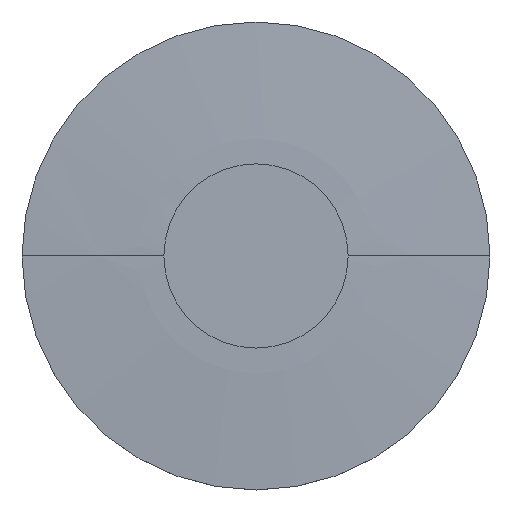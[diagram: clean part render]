
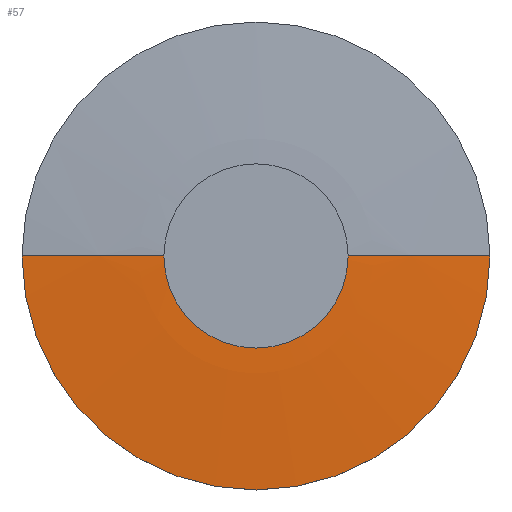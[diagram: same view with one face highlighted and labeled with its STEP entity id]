
A CAD part, top view. The second image highlights one B-rep face of the part: STEP entity #57.
In plain terms, the highlighted spherical face has radius 385.505 mm.
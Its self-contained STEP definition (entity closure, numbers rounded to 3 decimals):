
#57=ADVANCED_FACE('',(#71),#72,.T.);
#71=FACE_OUTER_BOUND('',#91,.T.);
#72=SPHERICAL_SURFACE('',#92,385.505);
#91=EDGE_LOOP('',(#124,#125,#126));
#92=AXIS2_PLACEMENT_3D('',#127,#128,#129);
#124=ORIENTED_EDGE('',*,*,#173,.T.);
#125=ORIENTED_EDGE('',*,*,#174,.T.);
#126=ORIENTED_EDGE('',*,*,#175,.T.);
#127=CARTESIAN_POINT('',(0.0,0.0,-379.505));
#128=DIRECTION('',(0.0,0.0,1.0));
#129=DIRECTION('',(1.0,0.0,0.0));
#173=EDGE_CURVE('',#189,#194,#195,.T.);
#174=EDGE_CURVE('',#194,#191,#196,.T.);
#175=EDGE_CURVE('',#191,#189,#197,.T.);
#189=VERTEX_POINT('',#215);
#191=VERTEX_POINT('',#218);
#194=VERTEX_POINT('',#222);
#195=CIRCLE('',#223,385.505);
#196=CIRCLE('',#224,385.505);
#197=CIRCLE('',#225,25.4);
#215=CARTESIAN_POINT('',(25.4,0.,5.162));
#218=CARTESIAN_POINT('',(-25.4,0.,5.162));
#222=CARTESIAN_POINT('',(0.0,0.0,6.0));
#223=AXIS2_PLACEMENT_3D('',#253,#254,#255);
#224=AXIS2_PLACEMENT_3D('',#256,#257,#258);
#225=AXIS2_PLACEMENT_3D('',#259,#260,#261);
#253=CARTESIAN_POINT('',(0.0,0.0,-379.505));
#254=DIRECTION('',(0.,-1.0,0.0));
#255=DIRECTION('',(0.0,0.0,1.0));
#256=CARTESIAN_POINT('',(0.0,0.0,-379.505));
#257=DIRECTION('',(0.,-1.0,0.0));
#258=DIRECTION('',(0.0,0.0,1.0));
#259=CARTESIAN_POINT('',(0.0,0.0,5.162));
#260=DIRECTION('',(0.0,0.0,1.0));
#261=DIRECTION('',(1.0,0.0,0.0));
